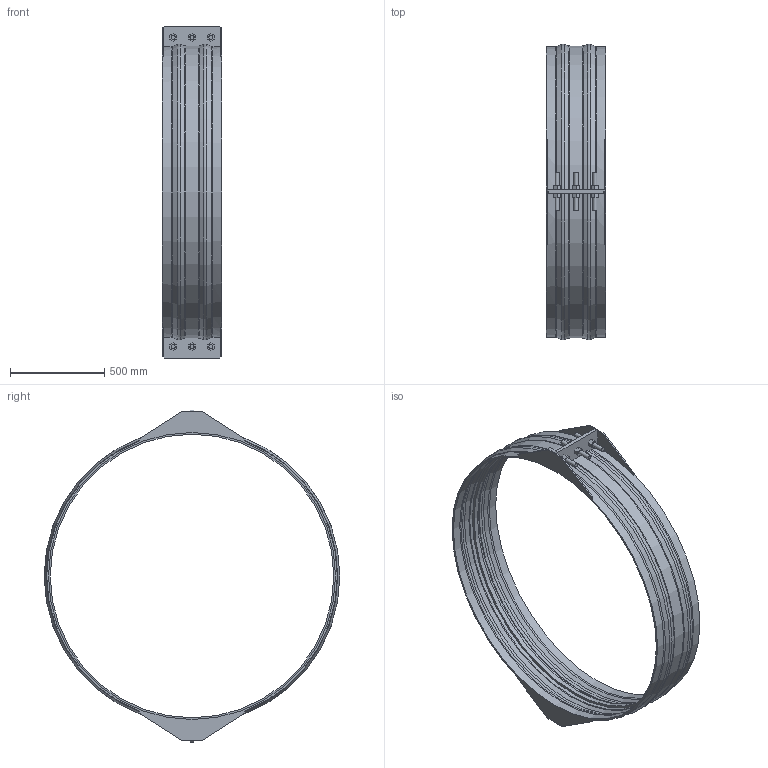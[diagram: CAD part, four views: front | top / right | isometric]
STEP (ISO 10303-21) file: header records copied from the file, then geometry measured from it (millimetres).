
FILE_DESCRIPTION(/* description */ ('VIC RESTRAINED COUPLING STYLE 233 (FLEX) (BRD)','CAx-IF Rec.Pracs.---Representation and Presentation of Product Manufacturing Information (PMI)---4.0---2014-10-13'),/* implementation_level */ '2;1');
FILE_NAME(/* name */ 'C:\Users\Vjadhav\Desktop\CAD for Inventor\Test for STEP\Vivek\Adsk_Inventor_Bolted Sleeve_iParts\STEP\Victaulic_VBSP_Coupling Flexible Restrained_Style 233 (BRD)\Victaulic_VBSP_Coupling Flexible Restrained_Style 233 (BRD)_150psi_60 (1500).stp',/* time_stamp */ '2020-09-24T12:30:29+05:00',/* author */ ('Vjadhav'),/* organization */ ('Victaulic'),/* preprocessor_version */ 'ST-DEVELOPER v17.2',/* originating_system */ 'Autodesk Inventor 2019',/* authorisation */ '');
FILE_SCHEMA (('AP242_MANAGED_MODEL_BASED_3D_ENGINEERING_MIM_LF { 1 0 10303 442 1 1 4 }'));
Length unit declared in the file: inch
Products named in the file (1): Style_233_Type_2_150psi-60.0
Bounding box: 317.5 x 1569.74 x 1762.76 mm (x, y, z)
Volume: 19093546.1 mm3; surface area: 3847577.9 mm2
Topology: 1 solids, 1 shells, 211 faces, 557 edges, 374 vertices
Faces by surface type: plane 142, cylinder 39, torus 18, cone 12
Full cylindrical faces by diameter (mm): 22.225 x12, 1504.95 x1, 1524 x2, 1530.35 x2
Entity records: 7048 total; most frequent: CARTESIAN_POINT 1352, DIRECTION 1127, ORIENTED_EDGE 1114, EDGE_CURVE 557, LINE 389, VECTOR 389, VERTEX_POINT 374, AXIS2_PLACEMENT_3D 369
